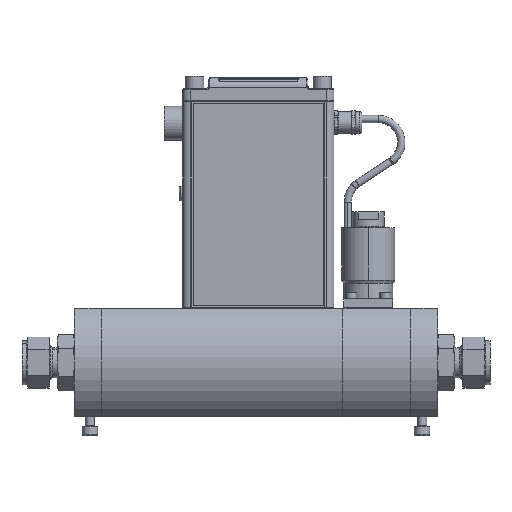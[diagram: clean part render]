
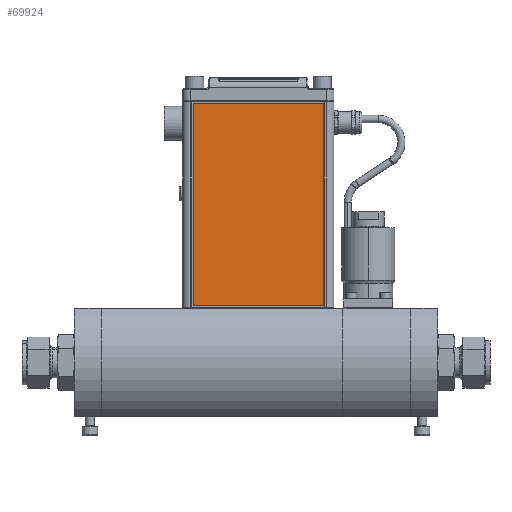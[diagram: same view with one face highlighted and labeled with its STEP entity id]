
A CAD part, front view. The second image highlights one B-rep face of the part: STEP entity #69924.
In plain terms, the highlighted planar face has unit normal (0, -1, 0).
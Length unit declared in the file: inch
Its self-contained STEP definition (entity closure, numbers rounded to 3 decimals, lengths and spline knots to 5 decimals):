
#672 = VERTEX_POINT ( 'NONE', #43171 ) ;
#3255 = VECTOR ( 'NONE', #20857, 39.37008 ) ;
#10972 = VERTEX_POINT ( 'NONE', #45553 ) ;
#11676 = EDGE_CURVE ( 'NONE', #64741, #672, #68254, .T. ) ;
#11765 = AXIS2_PLACEMENT_3D ( 'NONE', #81828, #67881, #55192 ) ;
#11799 = CARTESIAN_POINT ( 'NONE',  ( -0.38822, -0.25061, 6.24514 ) ) ;
#11848 = DIRECTION ( 'NONE',  ( -1., 0., 0. ) ) ;
#13436 = ORIENTED_EDGE ( 'NONE', *, *, #67361, .T. ) ;
#17901 = DIRECTION ( 'NONE',  ( 0., 0., 1. ) ) ;
#18648 = LINE ( 'NONE', #23714, #46448 ) ;
#20857 = DIRECTION ( 'NONE',  ( 0., 0., -1. ) ) ;
#21040 = VERTEX_POINT ( 'NONE', #11799 ) ;
#23119 = ORIENTED_EDGE ( 'NONE', *, *, #11676, .T. ) ;
#23714 = CARTESIAN_POINT ( 'NONE',  ( 1.27678, -0.25061, 1.07514 ) ) ;
#30194 = FACE_OUTER_BOUND ( 'NONE', #34134, .T. ) ;
#32565 = EDGE_CURVE ( 'NONE', #10972, #64741, #18648, .T. ) ;
#34134 = EDGE_LOOP ( 'NONE', ( #23119, #64436, #13436, #69958 ) ) ;
#36101 = CARTESIAN_POINT ( 'NONE',  ( 2.94178, -0.25061, 1.07514 ) ) ;
#38189 = VECTOR ( 'NONE', #17901, 39.37008 ) ;
#38885 = VECTOR ( 'NONE', #11848, 39.37008 ) ;
#39876 = LINE ( 'NONE', #70754, #3255 ) ;
#43171 = CARTESIAN_POINT ( 'NONE',  ( 2.94178, -0.25061, 6.24514 ) ) ;
#45553 = CARTESIAN_POINT ( 'NONE',  ( -0.38822, -0.25061, 1.07514 ) ) ;
#46448 = VECTOR ( 'NONE', #49499, 39.37008 ) ;
#48637 = CARTESIAN_POINT ( 'NONE',  ( 1.27678, -0.25061, 6.24514 ) ) ;
#49499 = DIRECTION ( 'NONE',  ( 1., 0., 0. ) ) ;
#50296 = LINE ( 'NONE', #48637, #38885 ) ;
#50749 = CARTESIAN_POINT ( 'NONE',  ( 2.94178, -0.25061, 1.07514 ) ) ;
#55192 = DIRECTION ( 'NONE',  ( 0., 0., -1. ) ) ;
#60277 = EDGE_CURVE ( 'NONE', #672, #21040, #50296, .T. ) ;
#64436 = ORIENTED_EDGE ( 'NONE', *, *, #60277, .T. ) ;
#64741 = VERTEX_POINT ( 'NONE', #50749 ) ;
#67361 = EDGE_CURVE ( 'NONE', #21040, #10972, #39876, .T. ) ;
#67881 = DIRECTION ( 'NONE',  ( 0., -1., 0. ) ) ;
#68254 = LINE ( 'NONE', #36101, #38189 ) ;
#69924 = ADVANCED_FACE ( 'NONE', ( #30194 ), #80171, .T. ) ;
#69958 = ORIENTED_EDGE ( 'NONE', *, *, #32565, .T. ) ;
#70754 = CARTESIAN_POINT ( 'NONE',  ( -0.38822, -0.25061, 1.07514 ) ) ;
#80171 = PLANE ( 'NONE',  #11765 ) ;
#81828 = CARTESIAN_POINT ( 'NONE',  ( 1.27678, -0.25061, 1.07514 ) ) ;
